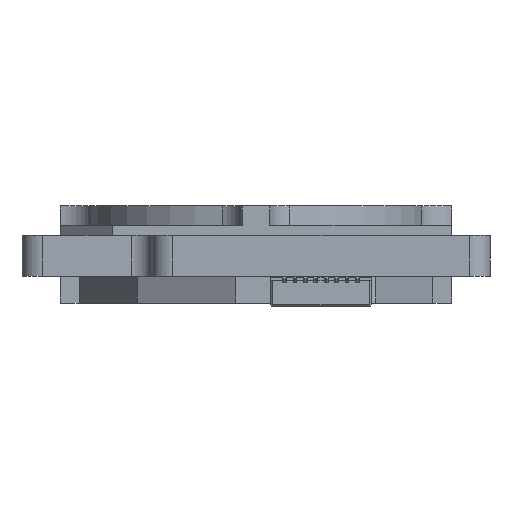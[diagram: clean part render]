
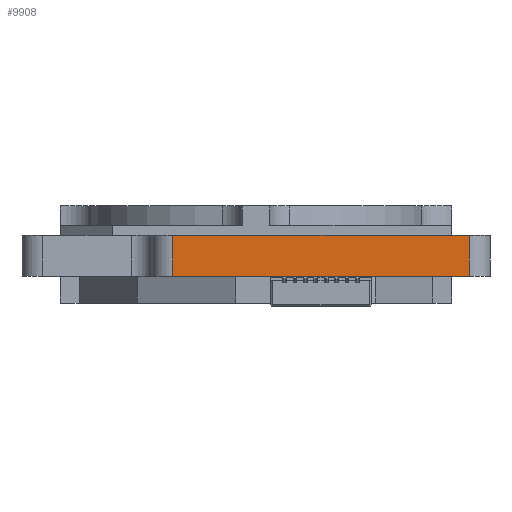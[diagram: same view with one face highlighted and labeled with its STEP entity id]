
A CAD part, front view. The second image highlights one B-rep face of the part: STEP entity #9908.
In plain terms, the highlighted planar face has unit normal (0, -1, 0).
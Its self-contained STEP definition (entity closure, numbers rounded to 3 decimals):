
#1881 = CARTESIAN_POINT ( 'NONE',  ( -47.932, -3.477, 0. ) ) ;
#1926 = VECTOR ( 'NONE', #9113, 1000. ) ;
#2332 = VECTOR ( 'NONE', #3302, 1000. ) ;
#2535 = VECTOR ( 'NONE', #5559, 1000. ) ;
#2604 = CARTESIAN_POINT ( 'NONE',  ( -36.532, -3.477, 0. ) ) ;
#2653 = EDGE_LOOP ( 'NONE', ( #12760, #8803, #12715, #10996 ) ) ;
#3302 = DIRECTION ( 'NONE',  ( -1., 0., 0. ) ) ;
#4288 = CARTESIAN_POINT ( 'NONE',  ( -36.532, -3.477, 1.575 ) ) ;
#4390 = LINE ( 'NONE', #6398, #12342 ) ;
#4774 = LINE ( 'NONE', #10026, #1926 ) ;
#5000 = EDGE_CURVE ( 'NONE', #5812, #7067, #4774, .T. ) ;
#5559 = DIRECTION ( 'NONE',  ( -1., 0., 0. ) ) ;
#5812 = VERTEX_POINT ( 'NONE', #10182 ) ;
#6398 = CARTESIAN_POINT ( 'NONE',  ( -36.532, -3.477, 1.575 ) ) ;
#6561 = AXIS2_PLACEMENT_3D ( 'NONE', #12136, #12199, #11047 ) ;
#6627 = EDGE_CURVE ( 'NONE', #12075, #6778, #4390, .T. ) ;
#6713 = LINE ( 'NONE', #10927, #2535 ) ;
#6778 = VERTEX_POINT ( 'NONE', #2604 ) ;
#7067 = VERTEX_POINT ( 'NONE', #1881 ) ;
#7562 = DIRECTION ( 'NONE',  ( 0., 0., -1. ) ) ;
#8542 = CARTESIAN_POINT ( 'NONE',  ( 0., -3.477, 0. ) ) ;
#8803 = ORIENTED_EDGE ( 'NONE', *, *, #6627, .F. ) ;
#9113 = DIRECTION ( 'NONE',  ( 0., 0., -1. ) ) ;
#9640 = LINE ( 'NONE', #8542, #2332 ) ;
#9908 = ADVANCED_FACE ( 'NONE', ( #11789 ), #12884, .T. ) ;
#10026 = CARTESIAN_POINT ( 'NONE',  ( -47.932, -3.477, 1.575 ) ) ;
#10182 = CARTESIAN_POINT ( 'NONE',  ( -47.932, -3.477, 1.575 ) ) ;
#10927 = CARTESIAN_POINT ( 'NONE',  ( 0., -3.477, 1.575 ) ) ;
#10996 = ORIENTED_EDGE ( 'NONE', *, *, #5000, .T. ) ;
#11047 = DIRECTION ( 'NONE',  ( 1., 0., 0. ) ) ;
#11789 = FACE_OUTER_BOUND ( 'NONE', #2653, .T. ) ;
#12075 = VERTEX_POINT ( 'NONE', #4288 ) ;
#12136 = CARTESIAN_POINT ( 'NONE',  ( 0., -3.477, 1.575 ) ) ;
#12199 = DIRECTION ( 'NONE',  ( 0., -1., 0. ) ) ;
#12342 = VECTOR ( 'NONE', #7562, 1000. ) ;
#12715 = ORIENTED_EDGE ( 'NONE', *, *, #13022, .T. ) ;
#12760 = ORIENTED_EDGE ( 'NONE', *, *, #13596, .F. ) ;
#12884 = PLANE ( 'NONE',  #6561 ) ;
#13022 = EDGE_CURVE ( 'NONE', #12075, #5812, #6713, .T. ) ;
#13596 = EDGE_CURVE ( 'NONE', #6778, #7067, #9640, .T. ) ;
